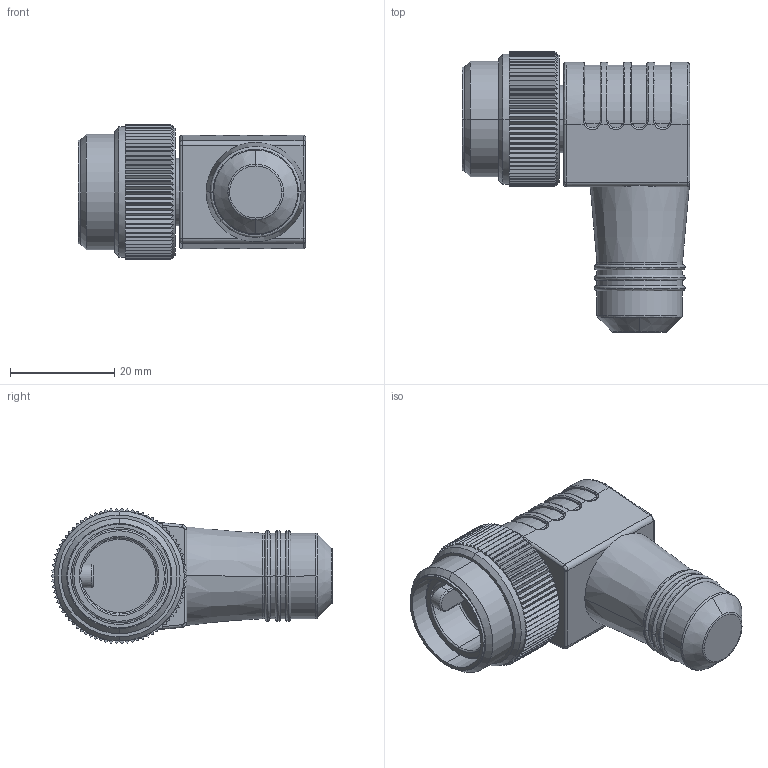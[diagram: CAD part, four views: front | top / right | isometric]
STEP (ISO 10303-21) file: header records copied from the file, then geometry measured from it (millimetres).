
FILE_DESCRIPTION (( 'STEP AP203' ), '1' );
FILE_NAME ('WSM-18AWG-16AWG.step', '2015-08-10T14:16:41', ( 'Turck User' ), ( '' ), 'SwSTEP 2.0', 'SolidWorks 2014', '' );
FILE_SCHEMA (( 'CONFIG_CONTROL_DESIGN' ));
Length unit declared in the file: millimetre
Products named in the file (2): WSM-18AWG-16AWG
Bounding box: 43.7 x 54 x 25.98 mm (x, y, z)
Volume: 23627.2 mm3; surface area: 8332.3 mm2
Topology: 1 solids, 1 shells, 489 faces, 1191 edges, 711 vertices
Faces by surface type: plane 268, cylinder 138, bspline 64, cone 10, torus 9
Entity records: 16524 total; most frequent: CARTESIAN_POINT 5660, ORIENTED_EDGE 2382, DIRECTION 2173, EDGE_CURVE 1191, AXIS2_PLACEMENT_3D 839, VERTEX_POINT 711, EDGE_LOOP 496, VECTOR 495
